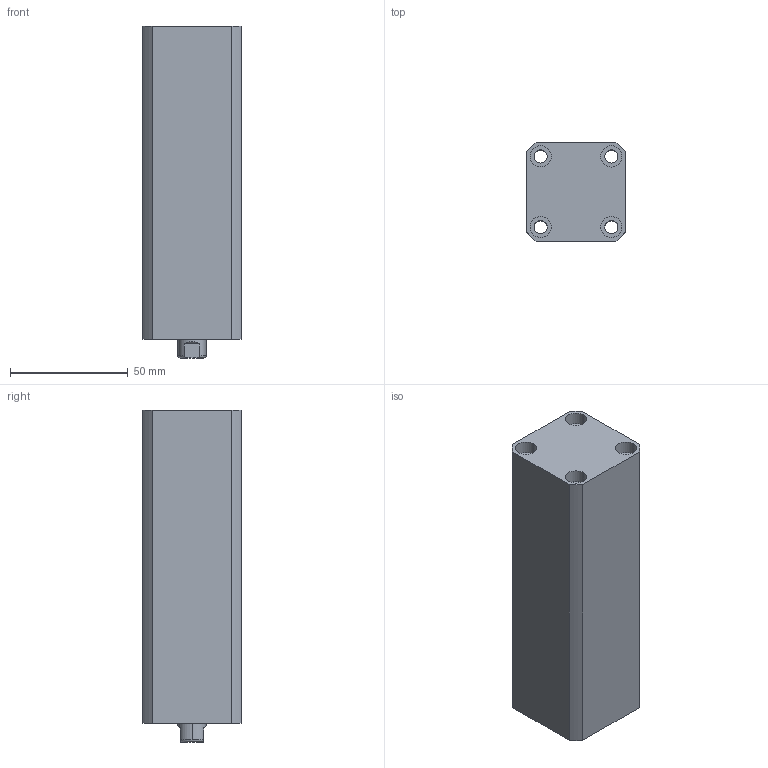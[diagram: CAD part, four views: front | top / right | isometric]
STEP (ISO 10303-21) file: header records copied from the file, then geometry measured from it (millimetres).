
FILE_DESCRIPTION (( 'STEP AP214' ), '1' );
FILE_NAME ('chtb-sd20x90n_asm.STEP', '2018-04-26T12:44:18', ( 'Windows' ), ( 'Microsoft' ), 'SwSTEP 2.0', 'SolidWorks 2015', '' );
FILE_SCHEMA (( 'AUTOMOTIVE_DESIGN' ));
Length unit declared in the file: millimetre
Products named in the file (4): chtb-sd20x90n_asm; QG; CHTB-SD20X90NHSG; CHTB-SD20X90NBT
Assembly tree (3 placements, depth 2):
  chtb-sd20x90n_asm
    CHTB-SD20X90NBT
    CHTB-SD20X90NHSG
    QG
Bounding box: 42 x 42 x 141 mm (x, y, z)
Volume: 194966.7 mm3; surface area: 54315.1 mm2
Topology: 3 solids, 3 shells, 192 faces, 499 edges, 330 vertices
Faces by surface type: cylinder 102, plane 36, torus 25, bspline 19, cone 10
Entity records: 10524 total; most frequent: CARTESIAN_POINT 5851, ORIENTED_EDGE 986, DIRECTION 903, EDGE_CURVE 493, AXIS2_PLACEMENT_3D 385, VERTEX_POINT 330, EDGE_LOOP 229, CIRCLE 206
